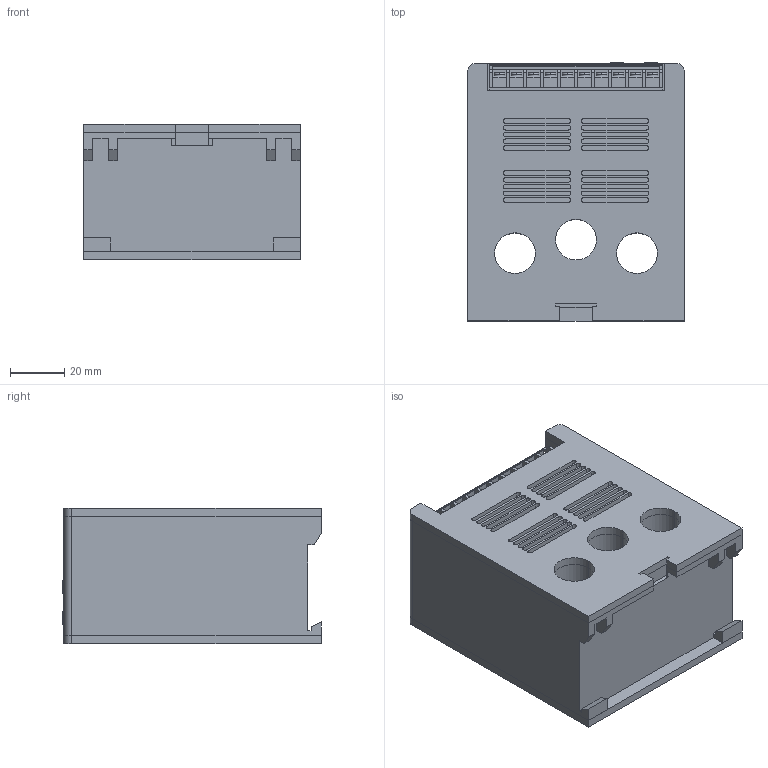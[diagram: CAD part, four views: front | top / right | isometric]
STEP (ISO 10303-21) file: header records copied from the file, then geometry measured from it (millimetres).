
FILE_DESCRIPTION (( 'STEP AP214' ), '1' );
FILE_NAME ('PM-007N.STEP', '2026-05-11T04:28:45', ( '' ), ( '' ), 'SwSTEP 2.0', 'SolidWorks 2022', '' );
FILE_SCHEMA (( 'AUTOMOTIVE_DESIGN' ));
Length unit declared in the file: millimetre
Products named in the file (1): PM-007N
Bounding box: 80 x 95.3 x 50 mm (x, y, z)
Volume: 323070.3 mm3; surface area: 79011.7 mm2
Topology: 40 solids, 40 shells, 3193 faces, 8451 edges, 5574 vertices
Faces by surface type: plane 2012, bspline 693, cylinder 350, cone 82, torus 56
Entity records: 162393 total; most frequent: CARTESIAN_POINT 51450, ORIENTED_EDGE 16886, DIRECTION 12933, EDGE_CURVE 8443, LINE 6059, VECTOR 6059, VERTEX_POINT 5574, EDGE_LOOP 3567
